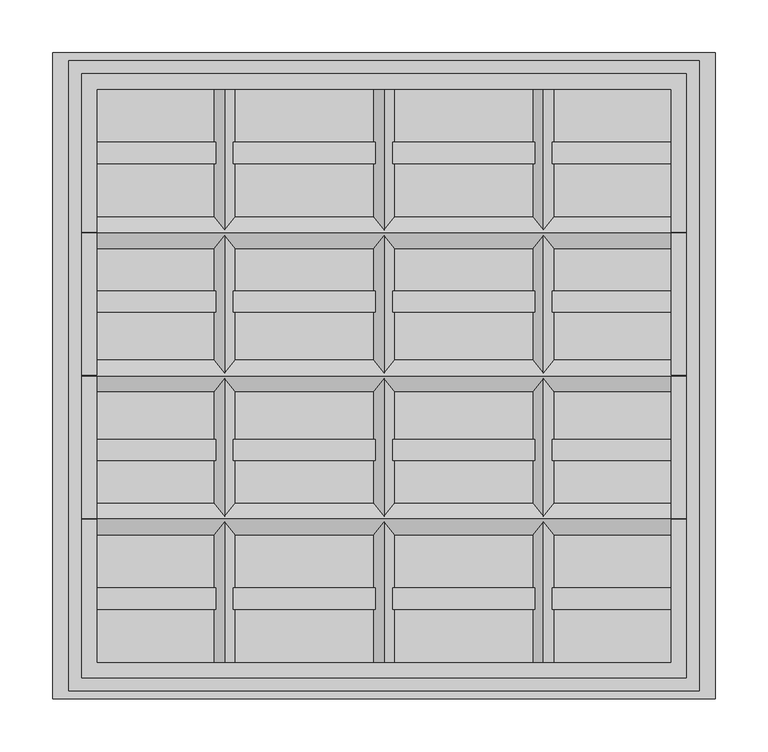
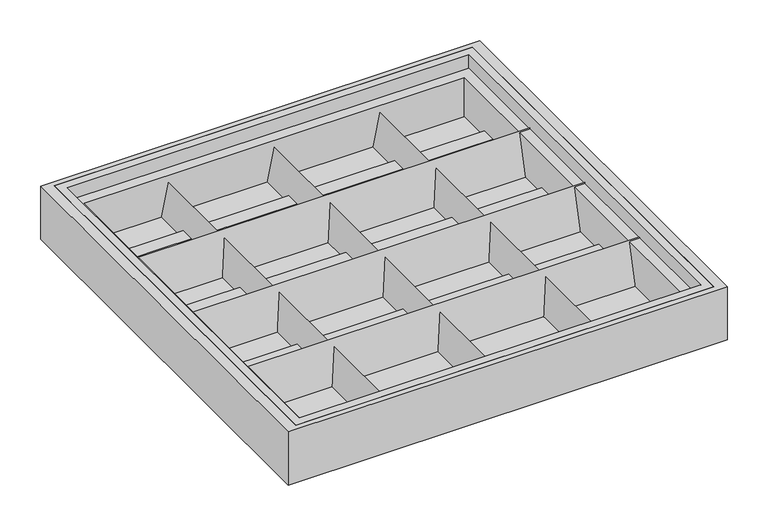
"""IFC4 building model written with IfcOpenShell, lengths in millimetres: light fixture geometry, ARS_S UNI LED (открыто) : ARS_S UNI LED (открыто)."""

from ifc_helpers import new_model, si_unit, frame, origin, origin_with_axes, place, context, project, spatial, polyline, outline, extrude, faceted_brep, source, transform, mapped, element, save


def light_fixture_7fb6fe20(model_context):
    return source(origin(), model_context, "Body", "SolidModel", [
        extrude(outline(polyline([(285.5, 60.1666667), (-285.5, 60.1666667), (-285.5, 80.1666667), (285.5, 80.1666667), (285.5, 60.1666667)])), origin_with_axes(), (0.0, 0.0, 1.0), 10.0),
        extrude(outline(polyline([(285.5, -80.1666667), (-285.5, -80.1666667), (-285.5, -60.1666667), (285.5, -60.1666667), (285.5, -80.1666667)])), origin_with_axes(), (0.0, 0.0, 1.0), 10.0),
        extrude(outline(polyline([(285.5, 200.5), (-285.5, 200.5), (-285.5, 220.5), (285.5, 220.5), (285.5, 200.5)])), origin_with_axes(), (0.0, 0.0, 1.0), 10.0),
        extrude(outline(polyline([(285.5, -220.5), (-285.5, -220.5), (-285.5, -200.5), (285.5, -200.5), (285.5, -220.5)])), origin_with_axes(), (0.0, 0.0, 1.0), 10.0),
        extrude(outline(polyline([(50.0, 0.0), (0.0, -10.0), (0.0, 10.0), (50.0, 0.0)])), frame((0.0, -278.0, 0.0), z_axis=(0.0, 1.0, 0.0), x_axis=(0.0, 0.0, 1.0)), (0.0, 0.0, 1.0), 556.0),
        extrude(outline(polyline([(50.0, -150.5), (0.0, -160.5), (0.0, -140.5), (50.0, -150.5)])), frame((0.0, -278.0, 0.0), z_axis=(0.0, 1.0, 0.0), x_axis=(0.0, 0.0, 1.0)), (0.0, 0.0, 1.0), 556.0),
        extrude(outline(polyline([(50.0, 150.5), (0.0, 140.5), (0.0, 160.5), (50.0, 150.5)])), frame((0.0, -278.0, 0.0), z_axis=(0.0, 1.0, 0.0), x_axis=(0.0, 0.0, 1.0)), (0.0, 0.0, 1.0), 556.0),
        extrude(outline(polyline([(135.25, 61.0), (150.25, 1.0), (120.25, 1.0), (135.25, 61.0)])), frame((-285.5, 0.0, 0.0), z_axis=(1.0, 0.0, 0.0), x_axis=(0.0, 1.0, 0.0)), (0.0, 0.0, 1.0), 571.0),
        extrude(outline(polyline([(-135.25, 61.0), (-120.25, 1.0), (-150.25, 1.0), (-135.25, 61.0)])), frame((-285.5, 0.0, 0.0), z_axis=(1.0, 0.0, 0.0), x_axis=(0.0, 1.0, 0.0)), (0.0, 0.0, 1.0), 571.0),
        extrude(outline(polyline([(0.0, 61.0), (15.0, 1.0), (-15.0, 1.0), (0.0, 61.0)])), frame((-285.5, 0.0, 0.0), z_axis=(1.0, 0.0, 0.0), x_axis=(0.0, 1.0, 0.0)), (0.0, 0.0, 1.0), 571.0),
        extrude(outline(polyline([(-312.5, -305.0), (-312.5, 305.0), (312.5, 305.0), (312.5, -305.0), (-312.5, -305.0)]), holes=[polyline([(297.5, 297.5), (-297.5, 297.5), (-297.5, -297.5), (297.5, -297.5), (297.5, 297.5)])]), origin_with_axes(), (0.0, 0.0, 1.0), 80.0),
        extrude(outline(polyline([(270.5, -270.5), (-270.5, -270.5), (-270.5, 270.5), (270.5, 270.5), (270.5, -270.5)])), origin_with_axes(), (0.0, 0.0, 1.0), 1.0),
        faceted_brep([(297.5, -297.5, 79.0), (297.5, 297.5, 79.0), (297.5, 297.5, 80.0), (297.5, -297.5, 80.0), (286.5, -286.5, 59.0), (286.5, 286.5, 59.0), (286.5, 286.5, 79.0), (286.5, -286.5, 79.0), (271.5, -271.5, 0.0), (271.5, 271.5, 0.0), (271.5, 271.5, 59.0), (271.5, -271.5, 59.0), (270.5, -270.5, 60.0), (270.5, 270.5, 60.0), (270.5, 270.5, 0.0), (270.5, -270.5, 0.0), (285.5, -285.5, 80.0), (285.5, 285.5, 80.0), (285.5, 285.5, 60.0), (285.5, -285.5, 60.0), (-297.5, 297.5, 79.0), (-297.5, 297.5, 80.0), (-286.5, 286.5, 59.0), (-286.5, 286.5, 79.0), (-271.5, 271.5, 0.0), (-271.5, 271.5, 59.0), (-270.5, 270.5, 60.0), (-270.5, 270.5, 0.0), (-285.5, 285.5, 80.0), (-285.5, 285.5, 60.0), (-297.5, -297.5, 79.0), (-297.5, -297.5, 80.0), (-286.5, -286.5, 59.0), (-286.5, -286.5, 79.0), (-271.5, -271.5, 0.0), (-271.5, -271.5, 59.0), (-270.5, -270.5, 60.0), (-270.5, -270.5, 0.0), (-285.5, -285.5, 80.0), (-285.5, -285.5, 60.0)], [[[0, 1, 2, 3]], [[4, 5, 6, 7]], [[8, 9, 10, 11]], [[12, 13, 14, 15]], [[16, 17, 18, 19]], [[1, 20, 21, 2]], [[5, 22, 23, 6]], [[9, 24, 25, 10]], [[13, 26, 27, 14]], [[17, 28, 29, 18]], [[20, 30, 31, 21]], [[22, 32, 33, 23]], [[24, 34, 35, 25]], [[26, 36, 37, 27]], [[28, 38, 39, 29]], [[3, 2, 21, 31], [17, 16, 38, 28]], [[30, 0, 3, 31]], [[1, 0, 30, 20], [7, 6, 23, 33]], [[32, 4, 7, 33]], [[5, 4, 32, 22], [11, 10, 25, 35]], [[34, 8, 11, 35]], [[9, 8, 34, 24], [15, 14, 27, 37]], [[36, 12, 15, 37]], [[19, 18, 29, 39], [13, 12, 36, 26]], [[38, 16, 19, 39]]]),
    ])


if __name__ == "__main__":
    model = new_model("IFC4")
    model_context = context("Model", 3, world=origin())
    ifc_project = project(units=[si_unit("LENGTHUNIT", "METRE", prefix="MILLI")], contexts=[model_context])
    site = spatial("IfcSite", under=ifc_project)
    building = spatial("IfcBuilding", under=site)
    placement = place(None, origin())
    light_fixture_shape = light_fixture_7fb6fe20(model_context)
    element("IfcLightFixture", 1, ObjectType="ARS_S UNI LED (открыто) : ARS_S UNI LED (открыто)", at=placement, inside=building, context=model_context, shape_type="MappedRepresentation", body=[
        mapped(light_fixture_shape, transform((0.0, 0.0, 0.0), x_axis=(1.0, 0.0, 0.0), y_axis=(0.0, 1.0, 0.0), z_axis=(0.0, 0.0, 1.0))),
    ])
    save(model, "model.ifc")
